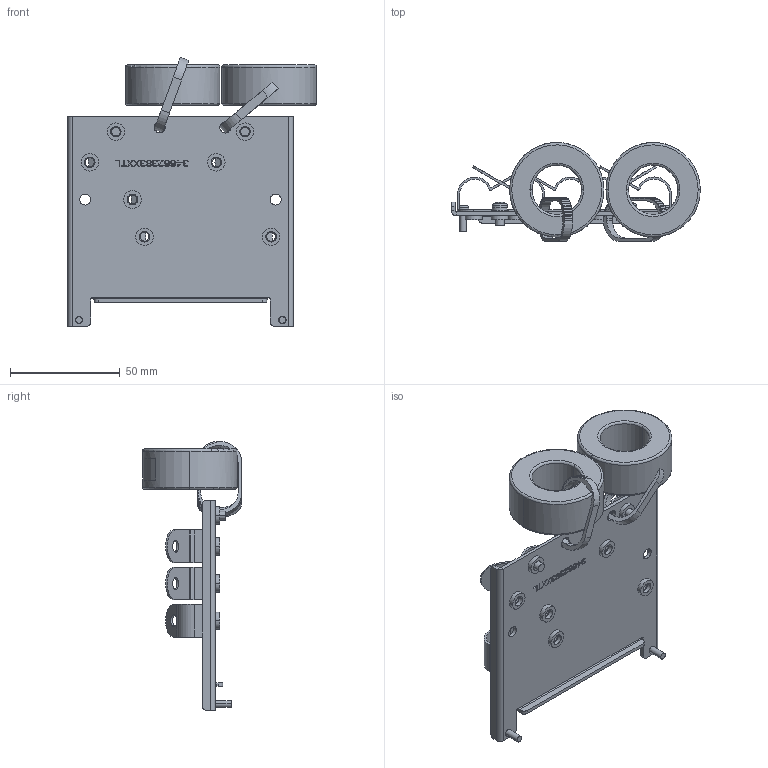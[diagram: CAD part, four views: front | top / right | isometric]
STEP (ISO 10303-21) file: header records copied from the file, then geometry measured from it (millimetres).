
FILE_DESCRIPTION((''),'2;1');
FILE_NAME('PF52X_EMC-PLATE-C_ASM_SW','2013-09-17T',('dtio'),('Rockwell Automation'),'PRO/ENGINEER BY PARAMETRIC TECHNOLOGY CORPORATION, 2010140','PRO/ENGINEER BY PARAMETRIC TECHNOLOGY CORPORATION, 2010140','');
FILE_SCHEMA(('CONFIG_CONTROL_DESIGN'));
Length unit declared in the file: millimetre
Products named in the file (1): PF52X_EMC-PLATE-C_ASM_SW
Bounding box: 113.55 x 45.07 x 122.88 mm (x, y, z)
Volume: 63017.4 mm3; surface area: 43283.5 mm2
Topology: 1 solids, 1 shells, 1402 faces, 3923 edges, 2596 vertices
Faces by surface type: plane 1136, cylinder 205, torus 23, extrusion 20, cone 8, sphere 8, bspline 2
Entity records: 45275 total; most frequent: CARTESIAN_POINT 8692, ORIENTED_EDGE 7830, DIRECTION 7167, EDGE_CURVE 3915, VECTOR 3305, LINE 3285, VERTEX_POINT 2596, AXIS2_PLACEMENT_3D 1931
